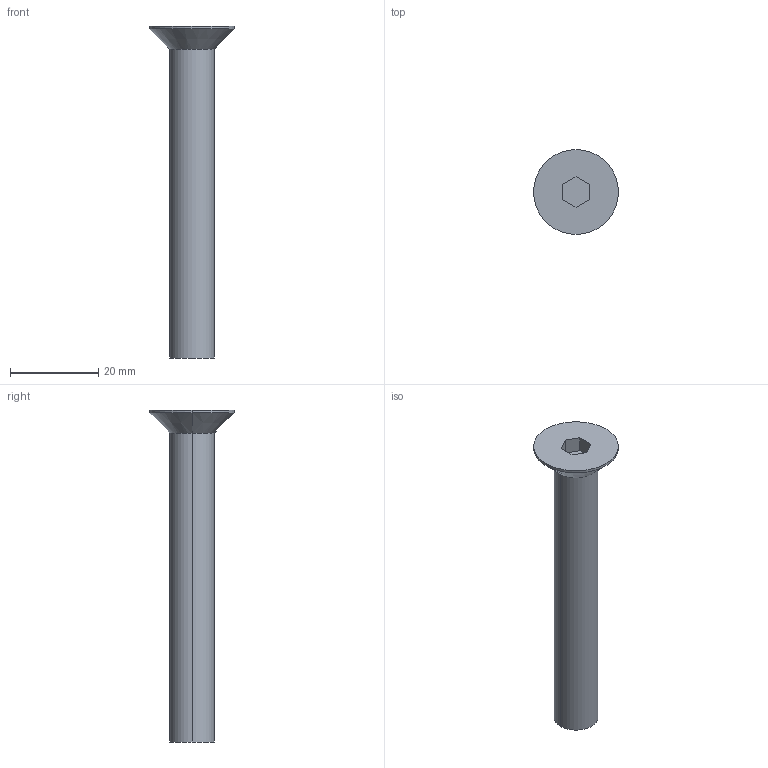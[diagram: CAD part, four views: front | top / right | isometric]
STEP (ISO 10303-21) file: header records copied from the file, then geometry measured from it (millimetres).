
FILE_DESCRIPTION (( 'STEP AP214' ), '1' );
FILE_NAME ('COUNTERSHUNK_HEAD_BOLT_M10(L=070).STEP', '2021-09-18T10:23:34', ( '' ), ( '' ), 'SwSTEP 2.0', 'SolidWorks 2018', '' );
FILE_SCHEMA (( 'AUTOMOTIVE_DESIGN' ));
Length unit declared in the file: millimetre
Products named in the file (1): COUNTERSHUNK_HEAD_BOLT_M10(L=070)
Bounding box: 19.22 x 19.22 x 75.22 mm (x, y, z)
Volume: 6361 mm3; surface area: 2978.7 mm2
Topology: 1 solids, 1 shells, 15 faces, 32 edges, 20 vertices
Faces by surface type: plane 9, cylinder 4, cone 2
Entity records: 436 total; most frequent: DIRECTION 72, CARTESIAN_POINT 68, ORIENTED_EDGE 64, EDGE_CURVE 32, VECTOR 24, LINE 24, AXIS2_PLACEMENT_3D 24, VERTEX_POINT 20
